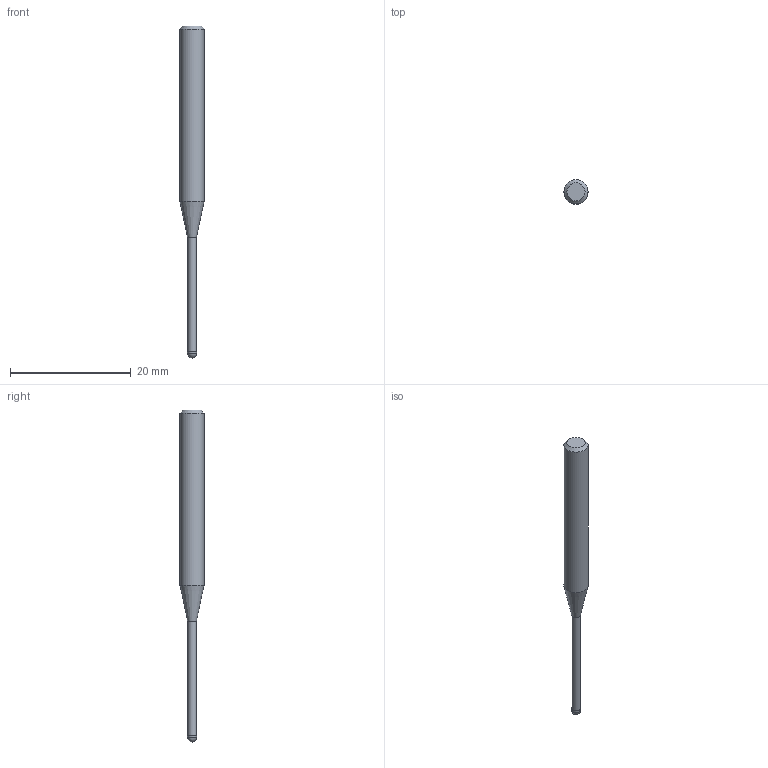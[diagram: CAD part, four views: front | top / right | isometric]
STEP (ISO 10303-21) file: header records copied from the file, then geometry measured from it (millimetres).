
FILE_DESCRIPTION((''),'2;1');
FILE_NAME('C:\Users\nsx150\AppData\Local\Temp\Mastercam 2021\3SYKECWX22\TEMP.step','2021-04-22T10:03:31',(''),(''),'STEP Write','Mastercam 2021 ... CNC Software, Inc.','');
FILE_SCHEMA(('AUTOMOTIVE_DESIGN'));
Length unit declared in the file: millimetre
Products named in the file (1): None
Bounding box: 4 x 4 x 55 mm (x, y, z)
Volume: 433.3 mm3; surface area: 520.2 mm2
Topology: 2 solids, 2 shells, 9 faces, 14 edges, 8 vertices
Faces by surface type: plane 3, cylinder 3, cone 2, sphere 1
Full cylindrical faces by diameter (mm): 1.45 x1, 1.5 x1, 4 x1
Entity records: 211 total; most frequent: DIRECTION 36, CARTESIAN_POINT 25, AXIS2_PLACEMENT_3D 18, ORIENTED_EDGE 14, EDGE_LOOP 14, STYLED_ITEM 12, ADVANCED_FACE 9, FACE_BOUND 8
